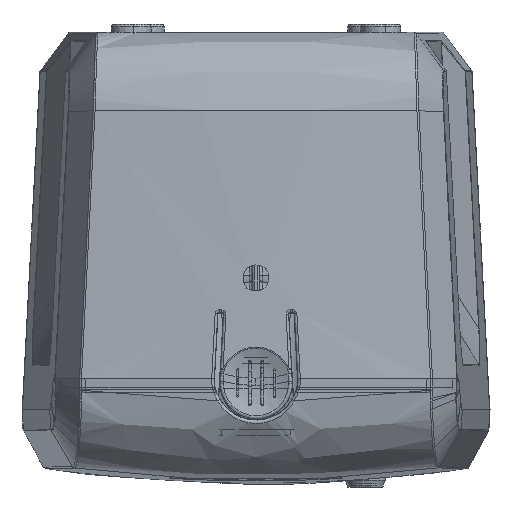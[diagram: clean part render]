
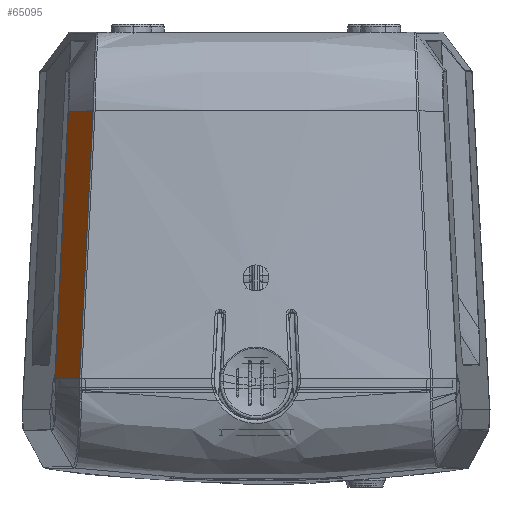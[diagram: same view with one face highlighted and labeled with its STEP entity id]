
A CAD part, front view. The second image highlights one B-rep face of the part: STEP entity #65095.
In plain terms, the highlighted free-form (B-spline) face has degree [1, 3] with [2, 7] control points.
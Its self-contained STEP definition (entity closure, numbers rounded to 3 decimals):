
#1398 = CARTESIAN_POINT ( 'NONE',  ( 36.057, -111.813, 15.275 ) ) ;
#2068 = CARTESIAN_POINT ( 'NONE',  ( 31.168, -119.087, 14.633 ) ) ;
#3645 = CARTESIAN_POINT ( 'NONE',  ( 33.884, -121.677, 68.081 ) ) ;
#4423 = CARTESIAN_POINT ( 'NONE',  ( 36.107, -111.674, 14.748 ) ) ;
#5231 = CARTESIAN_POINT ( 'NONE',  ( 37.014, -112.558, 32.916 ) ) ;
#14815 = B_SPLINE_CURVE_WITH_KNOTS ( 'NONE', 3,
 ( #96867, #58105, #107477, #70242, #119589, #156031, #156823, #93689, #81567, #157613 ),
 .UNSPECIFIED., .F., .F.,
 ( 4, 3, 3, 4 ),
 ( 0., 0.002, 0.004, 0.009 ),
 .UNSPECIFIED. ) ;
#14963 = CARTESIAN_POINT ( 'NONE',  ( 36.133, -111.699, 15.277 ) ) ;
#16564 = CARTESIAN_POINT ( 'NONE',  ( 37.894, -113.414, 50.556 ) ) ;
#18022 = CARTESIAN_POINT ( 'NONE',  ( 37.766, -113.476, 49.492 ) ) ;
#20269 = CARTESIAN_POINT ( 'NONE',  ( 33.664, -115.406, 15.22 ) ) ;
#25611 = CARTESIAN_POINT ( 'NONE',  ( 32.201, -119.744, 32.31 ) ) ;
#37085 = B_SPLINE_SURFACE_WITH_KNOTS ( 'NONE', 1, 3, ( 
 ( #139570, #16564, #5231, #14963, #65089, #54571, #4423 ),
 ( #3645, #39223, #38412, #65893, #150912, #137986, #2068 ) ),
 .UNSPECIFIED., .F., .F., .F.,
 ( 2, 2 ),
 ( 4, 3, 4 ),
 ( 0., 1. ),
 ( 0., 0.99, 1. ),
 .UNSPECIFIED. ) ;
#38412 = CARTESIAN_POINT ( 'NONE',  ( 32.091, -119.97, 32.802 ) ) ;
#39223 = CARTESIAN_POINT ( 'NONE',  ( 32.988, -120.825, 50.442 ) ) ;
#40159 = CARTESIAN_POINT ( 'NONE',  ( 31.33, -118.911, 15.166 ) ) ;
#40927 = CARTESIAN_POINT ( 'NONE',  ( 33.943, -121.403, 66.6 ) ) ;
#43865 = VECTOR ( 'NONE', #118981, 1000. ) ;
#48027 = EDGE_CURVE ( 'NONE', #133268, #62181, #14815, .T. ) ;
#49949 = CARTESIAN_POINT ( 'NONE',  ( 38.621, -114.303, 66.6 ) ) ;
#51233 = CARTESIAN_POINT ( 'NONE',  ( 36.912, -112.645, 32.383 ) ) ;
#54571 = CARTESIAN_POINT ( 'NONE',  ( 36.116, -111.682, 14.924 ) ) ;
#55953 = CARTESIAN_POINT ( 'NONE',  ( 33.943, -121.403, 66.6 ) ) ;
#58105 = CARTESIAN_POINT ( 'NONE',  ( 34.351, -120.783, 66.6 ) ) ;
#62181 = VERTEX_POINT ( 'NONE', #49949 ) ;
#63366 = CARTESIAN_POINT ( 'NONE',  ( 36.057, -111.813, 15.275 ) ) ;
#65089 = CARTESIAN_POINT ( 'NONE',  ( 36.124, -111.691, 15.101 ) ) ;
#65095 = ADVANCED_FACE ( 'NONE', ( #115271 ), #37085, .T. ) ;
#65893 = CARTESIAN_POINT ( 'NONE',  ( 31.195, -119.113, 15.163 ) ) ;
#70242 = CARTESIAN_POINT ( 'NONE',  ( 35.168, -119.543, 66.6 ) ) ;
#71805 = VERTEX_POINT ( 'NONE', #40159 ) ;
#73336 = ORIENTED_EDGE ( 'NONE', *, *, #98419, .F. ) ;
#73604 = EDGE_CURVE ( 'NONE', #94071, #71805, #80145, .T. ) ;
#74312 = ORIENTED_EDGE ( 'NONE', *, *, #73604, .F. ) ;
#74975 = CARTESIAN_POINT ( 'NONE',  ( 33.072, -120.575, 49.455 ) ) ;
#76770 = ORIENTED_EDGE ( 'NONE', *, *, #157689, .T. ) ;
#80145 = LINE ( 'NONE', #20269, #43865 ) ;
#80288 = CARTESIAN_POINT ( 'NONE',  ( 38.621, -114.303, 66.6 ) ) ;
#81567 = CARTESIAN_POINT ( 'NONE',  ( 37.879, -115.43, 66.6 ) ) ;
#87897 = CARTESIAN_POINT ( 'NONE',  ( 31.33, -118.911, 15.166 ) ) ;
#93689 = CARTESIAN_POINT ( 'NONE',  ( 37.136, -116.557, 66.6 ) ) ;
#94071 = VERTEX_POINT ( 'NONE', #1398 ) ;
#96867 = CARTESIAN_POINT ( 'NONE',  ( 33.943, -121.403, 66.6 ) ) ;
#98419 = EDGE_CURVE ( 'NONE', #71805, #133268, #112070, .T. ) ;
#107477 = CARTESIAN_POINT ( 'NONE',  ( 34.76, -120.163, 66.6 ) ) ;
#112070 = B_SPLINE_CURVE_WITH_KNOTS ( 'NONE', 3,
 ( #87897, #25611, #74975, #40927 ),
 .UNSPECIFIED., .F., .F.,
 ( 4, 4 ),
 ( 0., 1. ),
 .UNSPECIFIED. ) ;
#115271 = FACE_OUTER_BOUND ( 'NONE', #138224, .T. ) ;
#118981 = DIRECTION ( 'NONE',  ( -0.554, -0.832, -0.013 ) ) ;
#119589 = CARTESIAN_POINT ( 'NONE',  ( 35.577, -118.923, 66.6 ) ) ;
#133268 = VERTEX_POINT ( 'NONE', #55953 ) ;
#137986 = CARTESIAN_POINT ( 'NONE',  ( 31.177, -119.096, 14.81 ) ) ;
#138224 = EDGE_LOOP ( 'NONE', ( #74312, #76770, #149187, #73336 ) ) ;
#139570 = CARTESIAN_POINT ( 'NONE',  ( 38.775, -114.267, 68.196 ) ) ;
#142587 = B_SPLINE_CURVE_WITH_KNOTS ( 'NONE', 3,
 ( #63366, #51233, #18022, #80288 ),
 .UNSPECIFIED., .F., .F.,
 ( 4, 4 ),
 ( 0., 1. ),
 .UNSPECIFIED. ) ;
#149187 = ORIENTED_EDGE ( 'NONE', *, *, #48027, .F. ) ;
#150912 = CARTESIAN_POINT ( 'NONE',  ( 31.186, -119.104, 14.986 ) ) ;
#156031 = CARTESIAN_POINT ( 'NONE',  ( 35.985, -118.304, 66.6 ) ) ;
#156823 = CARTESIAN_POINT ( 'NONE',  ( 36.393, -117.684, 66.6 ) ) ;
#157613 = CARTESIAN_POINT ( 'NONE',  ( 38.621, -114.303, 66.6 ) ) ;
#157689 = EDGE_CURVE ( 'NONE', #94071, #62181, #142587, .T. ) ;
